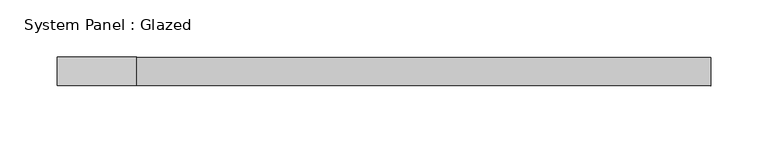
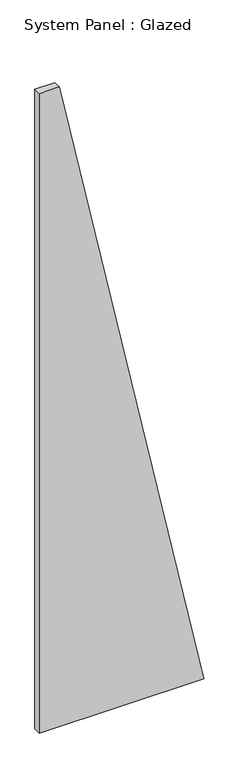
"""IFC4 building model written with IfcOpenShell, lengths in millimetres: plate geometry, System Panel : Glazed."""

from ifc_helpers import new_model, si_unit, frame, origin, place, context, project, spatial, polyline, outline, extrude, source, transform, mapped, element, save


def system_panel_glazed_d92d7be8(model_context):
    return source(origin(), model_context, "Body", "SweptSolid", [
        extrude(outline(polyline([(0.0, -286.1457879), (0.0, 286.1457879), (2350.0, -216.3802813), (2350.0, -286.1457879), (0.0, -286.1457879)])), frame((0.0, -49.5, 0.0), z_axis=(0.0, 1.0, 0.0), x_axis=(0.0, 0.0, 1.0)), (0.0, 0.0, 1.0), 25.0),
    ])


if __name__ == "__main__":
    model = new_model("IFC4")
    model_context = context("Model", 3, world=origin())
    ifc_project = project(units=[si_unit("LENGTHUNIT", "METRE", prefix="MILLI")], contexts=[model_context])
    site = spatial("IfcSite", under=ifc_project)
    building = spatial("IfcBuilding", under=site)
    placement = place(None, origin())
    system_panel_glazed_shape = system_panel_glazed_d92d7be8(model_context)
    element("IfcPlate", 1, ObjectType="System Panel : Glazed", at=placement, inside=building, context=model_context, shape_type="MappedRepresentation", body=[
        mapped(system_panel_glazed_shape, transform((0.0, 0.0, 0.0), x_axis=(1.0, 0.0, 0.0), y_axis=(0.0, 1.0, 0.0), z_axis=(0.0, 0.0, 1.0))),
    ])
    save(model, "model.ifc")
